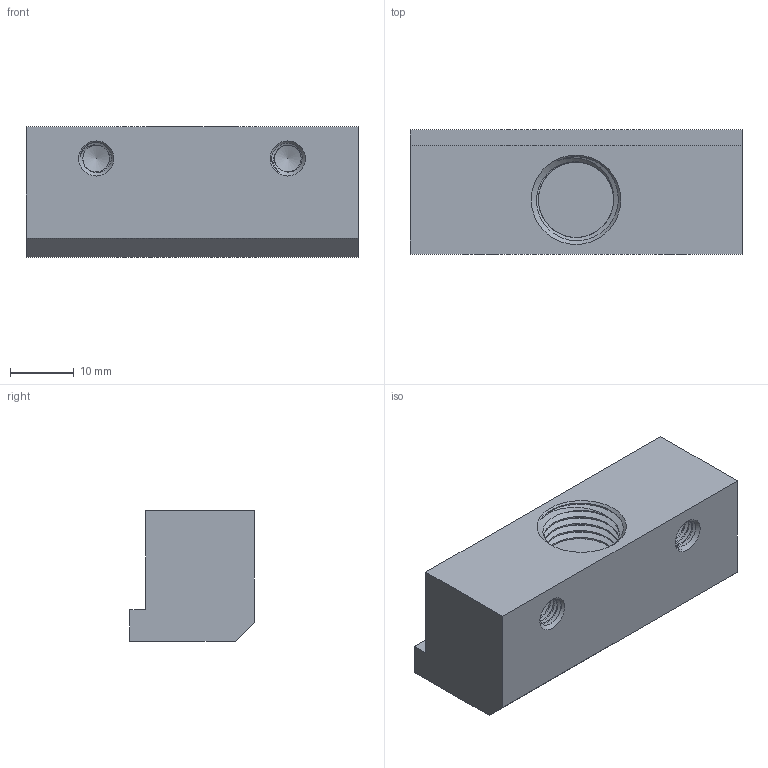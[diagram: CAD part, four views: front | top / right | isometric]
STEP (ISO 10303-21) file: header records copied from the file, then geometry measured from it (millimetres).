
FILE_DESCRIPTION (( 'STEP AP214' ), '1' );
FILE_NAME ('STEP - BJP 90 14 52.STEP', '2023-07-03T07:25:13', ( '' ), ( '' ), 'SwSTEP 2.0', 'SolidWorks 2021', '' );
FILE_SCHEMA (( 'AUTOMOTIVE_DESIGN' ));
Length unit declared in the file: millimetre
Products named in the file (1): STEP - BJP 90 14 52
Bounding box: 52 x 19.5 x 20.5 mm (x, y, z)
Volume: 17286.7 mm3; surface area: 5783.5 mm2
Topology: 1 solids, 10 shells, 75 faces, 169 edges, 115 vertices
Faces by surface type: cylinder 39, plane 21, bspline 9, cone 6
Full cylindrical faces by diameter (mm): 1.5 x8, 4.2 x19
Entity records: 8039 total; most frequent: CARTESIAN_POINT 6682, ORIENTED_EDGE 164, DIRECTION 156, EDGE_CURVE 82, EDGE_LOOP 72, AXIS2_PLACEMENT_3D 66, FACE_OUTER_BOUND 66, VERTEX_POINT 62
